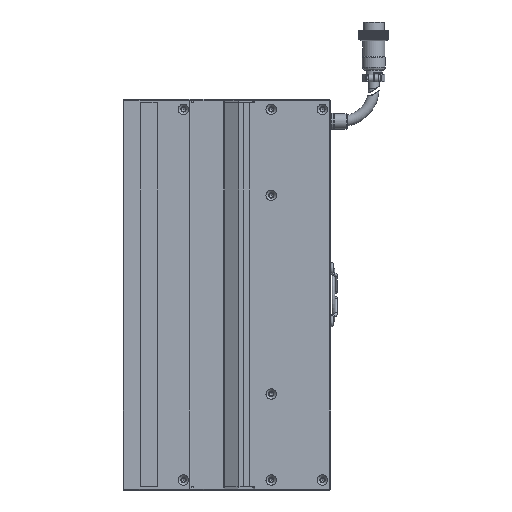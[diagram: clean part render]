
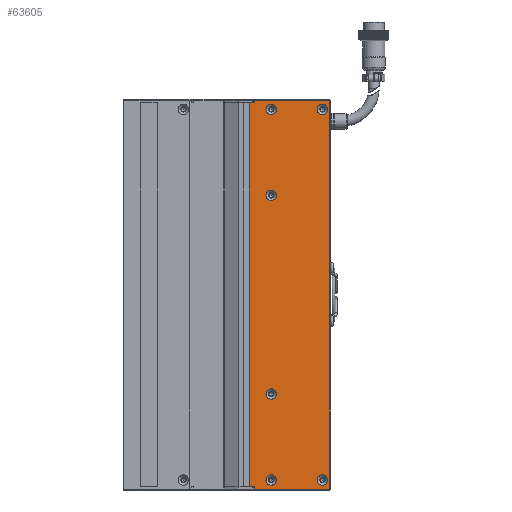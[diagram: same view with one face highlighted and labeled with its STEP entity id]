
A CAD part, left-side view. The second image highlights one B-rep face of the part: STEP entity #63605.
In plain terms, the highlighted planar face has unit normal (-1, 0, 0).
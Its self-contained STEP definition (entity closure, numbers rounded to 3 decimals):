
#350 = VECTOR ( 'NONE', #40725, 1000. ) ;
#2409 = CARTESIAN_POINT ( 'NONE',  ( -24.998, -26.5, 116. ) ) ;
#3586 = LINE ( 'NONE', #13062, #51850 ) ;
#4011 = ORIENTED_EDGE ( 'NONE', *, *, #22288, .F. ) ;
#4058 = CARTESIAN_POINT ( 'NONE',  ( -24.998, -67.5, -112. ) ) ;
#4256 = ORIENTED_EDGE ( 'NONE', *, *, #84505, .F. ) ;
#4488 = DIRECTION ( 'NONE',  ( 0., 0., 1. ) ) ;
#5848 = DIRECTION ( 'NONE',  ( 0., 0., 1. ) ) ;
#5988 = EDGE_CURVE ( 'NONE', #111742, #111742, #71229, .T. ) ;
#9204 = EDGE_LOOP ( 'NONE', ( #41666 ) ) ;
#10063 = VERTEX_POINT ( 'NONE', #100738 ) ;
#10918 = LINE ( 'NONE', #22240, #79589 ) ;
#10928 = DIRECTION ( 'NONE',  ( 0., 0., 1. ) ) ;
#11921 = FACE_BOUND ( 'NONE', #64815, .T. ) ;
#12464 = CIRCLE ( 'NONE', #18033, 3.15 ) ;
#13062 = CARTESIAN_POINT ( 'NONE',  ( -24.998, -72.5, -116. ) ) ;
#13337 = FACE_OUTER_BOUND ( 'NONE', #26733, .T. ) ;
#15578 = DIRECTION ( 'NONE',  ( -1., 0., 0. ) ) ;
#18033 = AXIS2_PLACEMENT_3D ( 'NONE', #51059, #97244, #4488 ) ;
#18205 = AXIS2_PLACEMENT_3D ( 'NONE', #75409, #84817, #10928 ) ;
#19049 = AXIS2_PLACEMENT_3D ( 'NONE', #106535, #106961, #107367 ) ;
#21289 = ORIENTED_EDGE ( 'NONE', *, *, #103116, .F. ) ;
#22240 = CARTESIAN_POINT ( 'NONE',  ( -24.998, -26.5, -109. ) ) ;
#22288 = EDGE_CURVE ( 'NONE', #36448, #10063, #73392, .T. ) ;
#22868 = DIRECTION ( 'NONE',  ( -1., 0., 0. ) ) ;
#23399 = CARTESIAN_POINT ( 'NONE',  ( -24.998, -67.5, -108.85 ) ) ;
#23757 = LINE ( 'NONE', #102184, #41336 ) ;
#24254 = ORIENTED_EDGE ( 'NONE', *, *, #85963, .T. ) ;
#26733 = EDGE_LOOP ( 'NONE', ( #70922, #90045, #4011, #24254, #109863, #73206, #100765, #49097 ) ) ;
#26791 = AXIS2_PLACEMENT_3D ( 'NONE', #4058, #22868, #41237 ) ;
#27887 = DIRECTION ( 'NONE',  ( 0., 0., -1. ) ) ;
#30330 = CARTESIAN_POINT ( 'NONE',  ( -24.998, -36.5, 63.15 ) ) ;
#31224 = DIRECTION ( 'NONE',  ( 0., 0., 1. ) ) ;
#32989 = LINE ( 'NONE', #67018, #65194 ) ;
#34349 = EDGE_LOOP ( 'NONE', ( #54354 ) ) ;
#36448 = VERTEX_POINT ( 'NONE', #82114 ) ;
#40139 = CARTESIAN_POINT ( 'NONE',  ( -24.998, -72.5, 116. ) ) ;
#40434 = DIRECTION ( 'NONE',  ( 0., -1., 0. ) ) ;
#40725 = DIRECTION ( 'NONE',  ( 0., 0., 1. ) ) ;
#41237 = DIRECTION ( 'NONE',  ( 0., 0., 1. ) ) ;
#41336 = VECTOR ( 'NONE', #27887, 1000. ) ;
#41666 = ORIENTED_EDGE ( 'NONE', *, *, #58765, .F. ) ;
#42617 = FACE_BOUND ( 'NONE', #80200, .T. ) ;
#42645 = CARTESIAN_POINT ( 'NONE',  ( -24.998, -36.5, 112. ) ) ;
#42915 = VERTEX_POINT ( 'NONE', #112263 ) ;
#43462 = DIRECTION ( 'NONE',  ( -1., 0., 0. ) ) ;
#44206 = LINE ( 'NONE', #107259, #350 ) ;
#48240 = CARTESIAN_POINT ( 'NONE',  ( -24.998, -72., 116. ) ) ;
#49097 = ORIENTED_EDGE ( 'NONE', *, *, #88122, .F. ) ;
#49864 = FACE_BOUND ( 'NONE', #57511, .T. ) ;
#50820 = CARTESIAN_POINT ( 'NONE',  ( -24.998, -72., 117.5 ) ) ;
#51059 = CARTESIAN_POINT ( 'NONE',  ( -24.998, -36.5, -60. ) ) ;
#51850 = VECTOR ( 'NONE', #40434, 1000. ) ;
#52218 = CARTESIAN_POINT ( 'NONE',  ( -24.998, -72.5, -117.5 ) ) ;
#53650 = CARTESIAN_POINT ( 'NONE',  ( -24.998, -23.25, -116. ) ) ;
#54354 = ORIENTED_EDGE ( 'NONE', *, *, #5988, .F. ) ;
#54841 = CIRCLE ( 'NONE', #76115, 3.15 ) ;
#55869 = DIRECTION ( 'NONE',  ( 0., 0., -1. ) ) ;
#55873 = EDGE_CURVE ( 'NONE', #61984, #61984, #94729, .T. ) ;
#57511 = EDGE_LOOP ( 'NONE', ( #4256 ) ) ;
#58765 = EDGE_CURVE ( 'NONE', #60507, #60507, #66228, .T. ) ;
#59065 = VERTEX_POINT ( 'NONE', #119630 ) ;
#60507 = VERTEX_POINT ( 'NONE', #88747 ) ;
#61984 = VERTEX_POINT ( 'NONE', #23399 ) ;
#62050 = VERTEX_POINT ( 'NONE', #81369 ) ;
#63416 = VERTEX_POINT ( 'NONE', #100131 ) ;
#63605 = ADVANCED_FACE ( 'NONE', ( #42617, #68844, #84889, #86432, #11921, #49864, #13337 ), #100023, .F. ) ;
#64815 = EDGE_LOOP ( 'NONE', ( #21289 ) ) ;
#65194 = VECTOR ( 'NONE', #76412, 1000. ) ;
#66228 = CIRCLE ( 'NONE', #19049, 3.15 ) ;
#67018 = CARTESIAN_POINT ( 'NONE',  ( -24.998, -72.5, 117.5 ) ) ;
#67495 = LINE ( 'NONE', #40139, #86513 ) ;
#68844 = FACE_BOUND ( 'NONE', #9204, .T. ) ;
#70922 = ORIENTED_EDGE ( 'NONE', *, *, #106918, .T. ) ;
#71229 = CIRCLE ( 'NONE', #18205, 3.15 ) ;
#73206 = ORIENTED_EDGE ( 'NONE', *, *, #77525, .T. ) ;
#73392 = LINE ( 'NONE', #52218, #120104 ) ;
#74239 = CARTESIAN_POINT ( 'NONE',  ( -24.998, -26.5, -116. ) ) ;
#75072 = DIRECTION ( 'NONE',  ( 1., 0., 0. ) ) ;
#75409 = CARTESIAN_POINT ( 'NONE',  ( -24.998, -36.5, 60. ) ) ;
#76115 = AXIS2_PLACEMENT_3D ( 'NONE', #42645, #43462, #5848 ) ;
#76412 = DIRECTION ( 'NONE',  ( 0., 1., 0. ) ) ;
#76513 = VECTOR ( 'NONE', #113527, 1000. ) ;
#77525 = EDGE_CURVE ( 'NONE', #62050, #82082, #23757, .T. ) ;
#78147 = AXIS2_PLACEMENT_3D ( 'NONE', #118770, #15578, #100444 ) ;
#79589 = VECTOR ( 'NONE', #31224, 1000. ) ;
#79646 = DIRECTION ( 'NONE',  ( 0., 1., 0. ) ) ;
#80200 = EDGE_LOOP ( 'NONE', ( #113060 ) ) ;
#80827 = EDGE_CURVE ( 'NONE', #63416, #63416, #100824, .T. ) ;
#81369 = CARTESIAN_POINT ( 'NONE',  ( -24.998, -26.5, 117.5 ) ) ;
#82082 = VERTEX_POINT ( 'NONE', #2409 ) ;
#82114 = CARTESIAN_POINT ( 'NONE',  ( -24.998, -72., -117.5 ) ) ;
#84003 = EDGE_LOOP ( 'NONE', ( #113514 ) ) ;
#84505 = EDGE_CURVE ( 'NONE', #59065, #59065, #12464, .T. ) ;
#84565 = VERTEX_POINT ( 'NONE', #106230 ) ;
#84817 = DIRECTION ( 'NONE',  ( -1., 0., 0. ) ) ;
#84889 = FACE_BOUND ( 'NONE', #84003, .T. ) ;
#85768 = EDGE_CURVE ( 'NONE', #10063, #105134, #10918, .T. ) ;
#85963 = EDGE_CURVE ( 'NONE', #36448, #111618, #94071, .T. ) ;
#86432 = FACE_BOUND ( 'NONE', #34349, .T. ) ;
#86513 = VECTOR ( 'NONE', #115195, 1000. ) ;
#88122 = EDGE_CURVE ( 'NONE', #106410, #84565, #44206, .T. ) ;
#88153 = AXIS2_PLACEMENT_3D ( 'NONE', #119150, #75072, #55869 ) ;
#88747 = CARTESIAN_POINT ( 'NONE',  ( -24.998, -36.5, -108.85 ) ) ;
#90045 = ORIENTED_EDGE ( 'NONE', *, *, #85768, .F. ) ;
#94071 = LINE ( 'NONE', #48240, #76513 ) ;
#94729 = CIRCLE ( 'NONE', #26791, 3.15 ) ;
#96487 = EDGE_CURVE ( 'NONE', #84565, #82082, #67495, .T. ) ;
#97244 = DIRECTION ( 'NONE',  ( -1., 0., 0. ) ) ;
#100023 = PLANE ( 'NONE',  #88153 ) ;
#100131 = CARTESIAN_POINT ( 'NONE',  ( -24.998, -67.5, 115.15 ) ) ;
#100444 = DIRECTION ( 'NONE',  ( 0., 0., 1. ) ) ;
#100738 = CARTESIAN_POINT ( 'NONE',  ( -24.998, -26.5, -117.5 ) ) ;
#100765 = ORIENTED_EDGE ( 'NONE', *, *, #96487, .F. ) ;
#100824 = CIRCLE ( 'NONE', #78147, 3.15 ) ;
#102184 = CARTESIAN_POINT ( 'NONE',  ( -24.998, -26.5, 109. ) ) ;
#103116 = EDGE_CURVE ( 'NONE', #42915, #42915, #54841, .T. ) ;
#103464 = EDGE_CURVE ( 'NONE', #111618, #62050, #32989, .T. ) ;
#105134 = VERTEX_POINT ( 'NONE', #74239 ) ;
#106230 = CARTESIAN_POINT ( 'NONE',  ( -24.998, -23.25, 116. ) ) ;
#106410 = VERTEX_POINT ( 'NONE', #53650 ) ;
#106535 = CARTESIAN_POINT ( 'NONE',  ( -24.998, -36.5, -112. ) ) ;
#106918 = EDGE_CURVE ( 'NONE', #106410, #105134, #3586, .T. ) ;
#106961 = DIRECTION ( 'NONE',  ( -1., 0., 0. ) ) ;
#107259 = CARTESIAN_POINT ( 'NONE',  ( -24.998, -23.25, -116. ) ) ;
#107367 = DIRECTION ( 'NONE',  ( 0., 0., 1. ) ) ;
#109863 = ORIENTED_EDGE ( 'NONE', *, *, #103464, .T. ) ;
#111618 = VERTEX_POINT ( 'NONE', #50820 ) ;
#111742 = VERTEX_POINT ( 'NONE', #30330 ) ;
#112263 = CARTESIAN_POINT ( 'NONE',  ( -24.998, -36.5, 115.15 ) ) ;
#113060 = ORIENTED_EDGE ( 'NONE', *, *, #55873, .F. ) ;
#113514 = ORIENTED_EDGE ( 'NONE', *, *, #80827, .F. ) ;
#113527 = DIRECTION ( 'NONE',  ( 0., 0., 1. ) ) ;
#115195 = DIRECTION ( 'NONE',  ( 0., -1., 0. ) ) ;
#118770 = CARTESIAN_POINT ( 'NONE',  ( -24.998, -67.5, 112. ) ) ;
#119150 = CARTESIAN_POINT ( 'NONE',  ( -24.998, -72.5, 116. ) ) ;
#119630 = CARTESIAN_POINT ( 'NONE',  ( -24.998, -36.5, -56.85 ) ) ;
#120104 = VECTOR ( 'NONE', #79646, 1000. ) ;
